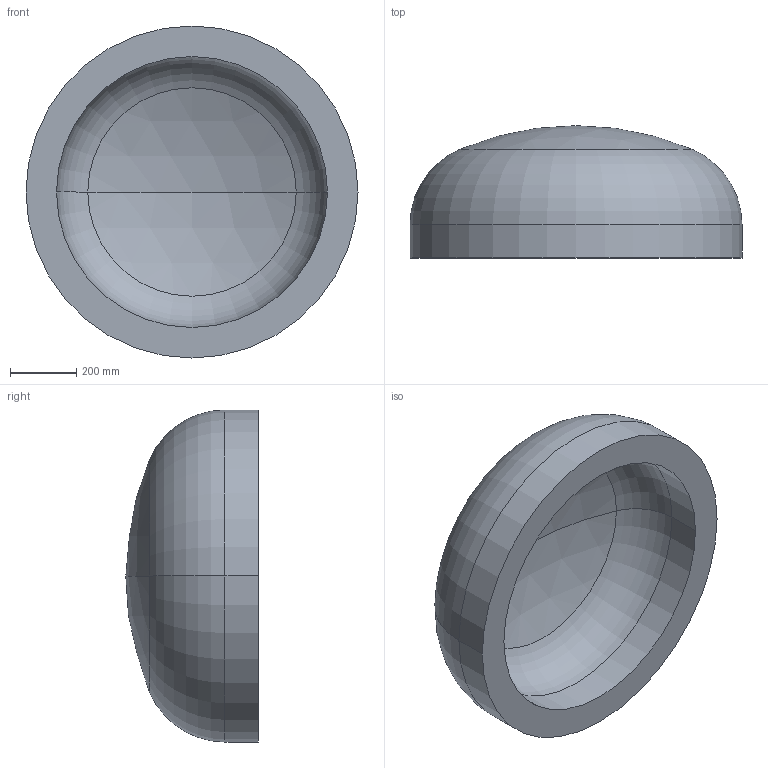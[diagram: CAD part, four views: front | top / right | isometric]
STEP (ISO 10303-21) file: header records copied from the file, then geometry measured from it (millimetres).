
FILE_DESCRIPTION (( 'STEP AP203' ), '1' );
FILE_NAME ('DIN 28013 Korbbogenform_-_Boden DIN 28013 - 1000 x 100 - I - s=92.step', '2016-07-01T08:55:49', ( '' ), ( '' ), 'SwSTEP 2.0', 'SolidWorks 2013', '' );
FILE_SCHEMA (( 'CONFIG_CONTROL_DESIGN' ));
Length unit declared in the file: millimetre
Products named in the file (1): DIN 28013 Korbbogenform_-_Boden DIN 28013 - 1000 x 100 - I - s=92
Bounding box: 1000 x 398.69 x 1000 mm (x, y, z)
Volume: 115615561.5 mm3; surface area: 2793544.4 mm2
Topology: 1 solids, 1 shells, 13 faces, 24 edges, 14 vertices
Faces by surface type: torus 4, cylinder 4, sphere 4, plane 1
Entity records: 407 total; most frequent: DIRECTION 72, CARTESIAN_POINT 52, ORIENTED_EDGE 48, AXIS2_PLACEMENT_3D 34, EDGE_CURVE 24, CIRCLE 20, EDGE_LOOP 14, VERTEX_POINT 14
